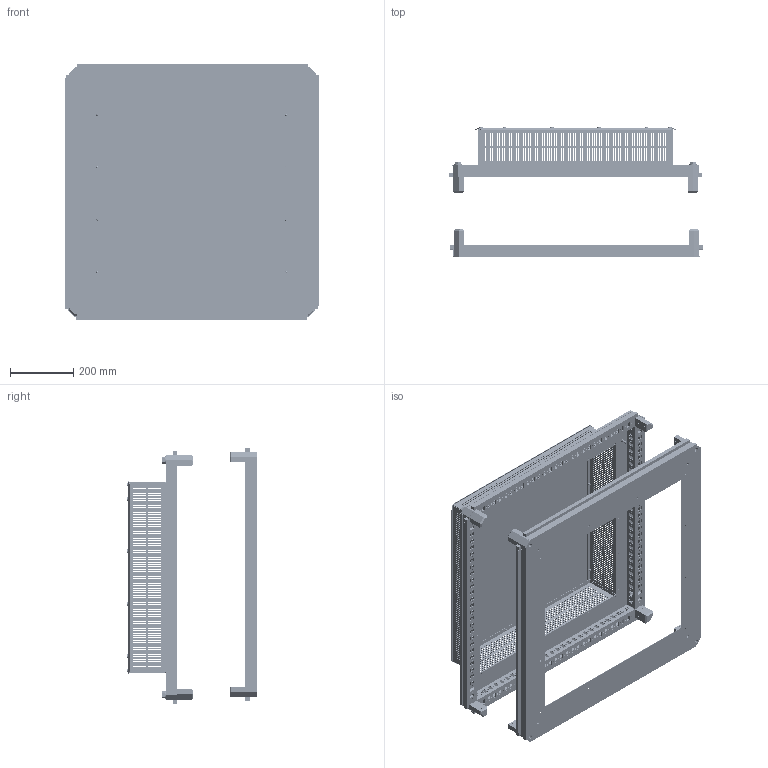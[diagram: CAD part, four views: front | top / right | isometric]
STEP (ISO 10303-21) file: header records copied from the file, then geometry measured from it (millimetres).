
FILE_DESCRIPTION (( 'STEP AP214' ), '1' );
FILE_NAME ('FO-00-KOF-080-080-31 Êðûøà è îñíîâàíèå (ïîä ôëàíåö) 800õ800 ìì IP31.STEP', '2025-07-23T12:17:59', ( '' ), ( '' ), 'SwSTEP 2.0', 'SolidWorks 2023', '' );
FILE_SCHEMA (( 'AUTOMOTIVE_DESIGN' ));
Length unit declared in the file: millimetre
Products named in the file (3): FO-00-KOF-080-080-31 Крыша и основание (под фланец) 800х800 мм IP31; Основание под фланец 800х800; Крыша под фланец 800х800 IP31
Assembly tree (2 placements, depth 2):
  FO-00-KOF-080-080-31 Крыша и основание (под фланец) 800х800 мм IP31
    Крыша под фланец 800х800 IP31
    Основание под фланец 800х800
Bounding box: 802.88 x 412.33 x 809.58 mm (x, y, z)
Volume: 4520213.9 mm3; surface area: 3851400.9 mm2
Topology: 2 solids, 70 shells, 8548 faces, 24305 edges, 16121 vertices
Faces by surface type: plane 5908, cylinder 2136, cone 248, bspline 192, sphere 32, torus 32
Entity records: 287144 total; most frequent: CARTESIAN_POINT 57748, ORIENTED_EDGE 48590, DIRECTION 44324, EDGE_CURVE 24295, VECTOR 18476, LINE 18476, VERTEX_POINT 16121, AXIS2_PLACEMENT_3D 12924
